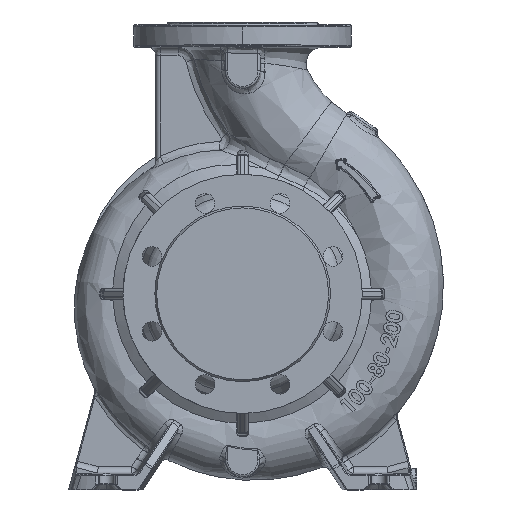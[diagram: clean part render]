
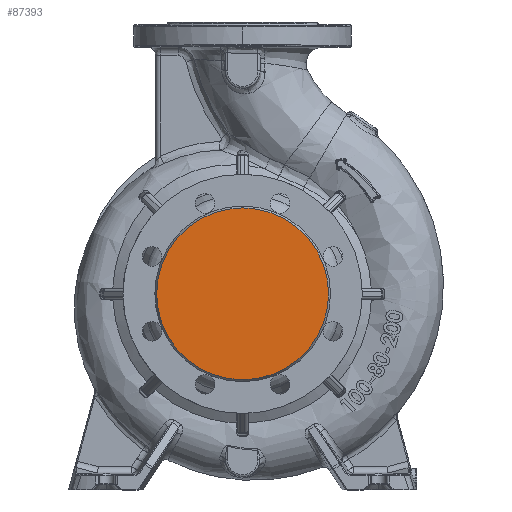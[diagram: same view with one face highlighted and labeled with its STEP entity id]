
A CAD part, top view. The second image highlights one B-rep face of the part: STEP entity #87393.
In plain terms, the highlighted planar face has unit normal (0, 0, 1).
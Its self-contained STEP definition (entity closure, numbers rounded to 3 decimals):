
#967 = VERTEX_POINT ( 'NONE', #56503 ) ;
#3700 = CARTESIAN_POINT ( 'NONE',  ( 0., 0., 125. ) ) ;
#9719 = ORIENTED_EDGE ( 'NONE', *, *, #46263, .F. ) ;
#14366 = AXIS2_PLACEMENT_3D ( 'NONE', #3700, #39198, #68525 ) ;
#15327 = AXIS2_PLACEMENT_3D ( 'NONE', #90344, #40775, #83801 ) ;
#24199 = DIRECTION ( 'NONE',  ( -1., 0., 0. ) ) ;
#25280 = CIRCLE ( 'NONE', #14366, 79. ) ;
#37942 = EDGE_CURVE ( 'NONE', #967, #76301, #25280, .T. ) ;
#39198 = DIRECTION ( 'NONE',  ( 0., 0., -1. ) ) ;
#40775 = DIRECTION ( 'NONE',  ( 0., 0., -1. ) ) ;
#46263 = EDGE_CURVE ( 'NONE', #76301, #967, #77663, .T. ) ;
#47422 = CARTESIAN_POINT ( 'NONE',  ( -79., 0., 125. ) ) ;
#56503 = CARTESIAN_POINT ( 'NONE',  ( 79., 0., 125. ) ) ;
#59816 = EDGE_LOOP ( 'NONE', ( #9719, #65049 ) ) ;
#60325 = CARTESIAN_POINT ( 'NONE',  ( 0., 0., 125. ) ) ;
#61893 = PLANE ( 'NONE',  #79385 ) ;
#65049 = ORIENTED_EDGE ( 'NONE', *, *, #37942, .F. ) ;
#66910 = DIRECTION ( 'NONE',  ( 0., 0., -1. ) ) ;
#68525 = DIRECTION ( 'NONE',  ( -1., 0., 0. ) ) ;
#72223 = FACE_OUTER_BOUND ( 'NONE', #59816, .T. ) ;
#76301 = VERTEX_POINT ( 'NONE', #47422 ) ;
#77663 = CIRCLE ( 'NONE', #15327, 79. ) ;
#79385 = AXIS2_PLACEMENT_3D ( 'NONE', #60325, #66910, #24199 ) ;
#83801 = DIRECTION ( 'NONE',  ( -1., 0., 0. ) ) ;
#87393 = ADVANCED_FACE ( 'NONE', ( #72223 ), #61893, .F. ) ;
#90344 = CARTESIAN_POINT ( 'NONE',  ( 0., 0., 125. ) ) ;
